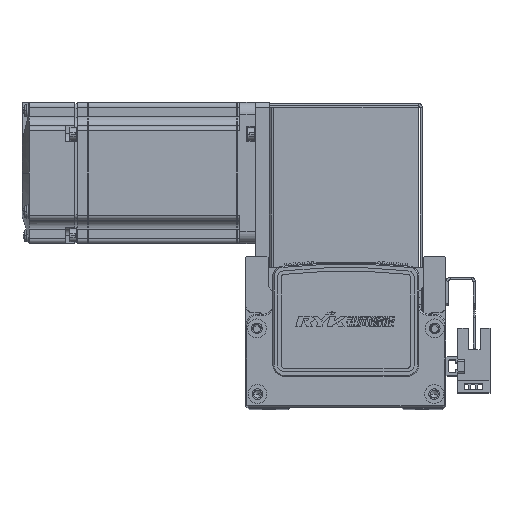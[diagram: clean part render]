
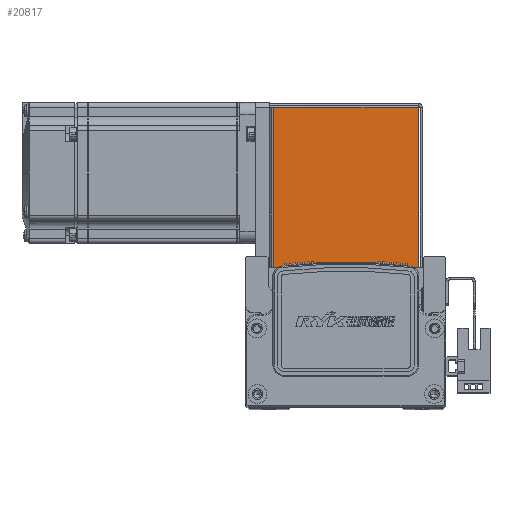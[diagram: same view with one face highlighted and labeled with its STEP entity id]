
A CAD part, top view. The second image highlights one B-rep face of the part: STEP entity #20817.
In plain terms, the highlighted planar face has unit normal (0, 0, 1).
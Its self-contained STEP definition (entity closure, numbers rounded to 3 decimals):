
#6000 = LINE ( 'NONE', #6843, #6002 ) ;
#6002 = VECTOR ( 'NONE', #6863, 1000. ) ;
#6033 = VECTOR ( 'NONE', #6869, 1000. ) ;
#6073 = LINE ( 'NONE', #6868, #6033 ) ;
#6076 = VECTOR ( 'NONE', #6888, 1000. ) ;
#6084 = LINE ( 'NONE', #6866, #6085 ) ;
#6085 = VECTOR ( 'NONE', #6862, 1000. ) ;
#6090 = LINE ( 'NONE', #6897, #6076 ) ;
#6843 = CARTESIAN_POINT ( 'NONE',  ( -30.793, 0., 35. ) ) ;
#6862 = DIRECTION ( 'NONE',  ( 0., 1., 0. ) ) ;
#6863 = DIRECTION ( 'NONE',  ( 0., 1., 0. ) ) ;
#6866 = CARTESIAN_POINT ( 'NONE',  ( 30.763, 0.737, 35. ) ) ;
#6868 = CARTESIAN_POINT ( 'NONE',  ( -32.5, 0.737, 35. ) ) ;
#6869 = DIRECTION ( 'NONE',  ( -1., 0., 0. ) ) ;
#6888 = DIRECTION ( 'NONE',  ( -1., 0., 0. ) ) ;
#6897 = CARTESIAN_POINT ( 'NONE',  ( 0., 68.5, 35. ) ) ;
#15865 = VERTEX_POINT ( 'NONE', #59612 ) ;
#15880 = VERTEX_POINT ( 'NONE', #59627 ) ;
#15885 = VERTEX_POINT ( 'NONE', #59650 ) ;
#15887 = VERTEX_POINT ( 'NONE', #59651 ) ;
#20817 = ADVANCED_FACE ( 'NONE', ( #46257 ), #45769, .F. ) ;
#24872 = AXIS2_PLACEMENT_3D ( 'NONE', #45778, #45747, #45748 ) ;
#41484 = ORIENTED_EDGE ( 'NONE', *, *, #51542, .T. ) ;
#41551 = ORIENTED_EDGE ( 'NONE', *, *, #51592, .T. ) ;
#41556 = ORIENTED_EDGE ( 'NONE', *, *, #51568, .F. ) ;
#41602 = ORIENTED_EDGE ( 'NONE', *, *, #51538, .F. ) ;
#45747 = DIRECTION ( 'NONE',  ( 0., 0., -1. ) ) ;
#45748 = DIRECTION ( 'NONE',  ( -1., 0., 0. ) ) ;
#45769 = PLANE ( 'NONE',  #24872 ) ;
#45778 = CARTESIAN_POINT ( 'NONE',  ( 0., 0., 35. ) ) ;
#46257 = FACE_OUTER_BOUND ( 'NONE', #71069, .T. ) ;
#51538 = EDGE_CURVE ( 'NONE', #15887, #15865, #6000, .T. ) ;
#51542 = EDGE_CURVE ( 'NONE', #15880, #15885, #6084, .T. ) ;
#51568 = EDGE_CURVE ( 'NONE', #15880, #15887, #6073, .T. ) ;
#51592 = EDGE_CURVE ( 'NONE', #15885, #15865, #6090, .T. ) ;
#59612 = CARTESIAN_POINT ( 'NONE',  ( -30.793, 68.5, 35. ) ) ;
#59627 = CARTESIAN_POINT ( 'NONE',  ( 30.763, 0.737, 35. ) ) ;
#59650 = CARTESIAN_POINT ( 'NONE',  ( 30.763, 68.5, 35. ) ) ;
#59651 = CARTESIAN_POINT ( 'NONE',  ( -30.793, 0.737, 35. ) ) ;
#71069 = EDGE_LOOP ( 'NONE', ( #41484, #41551, #41602, #41556 ) ) ;
